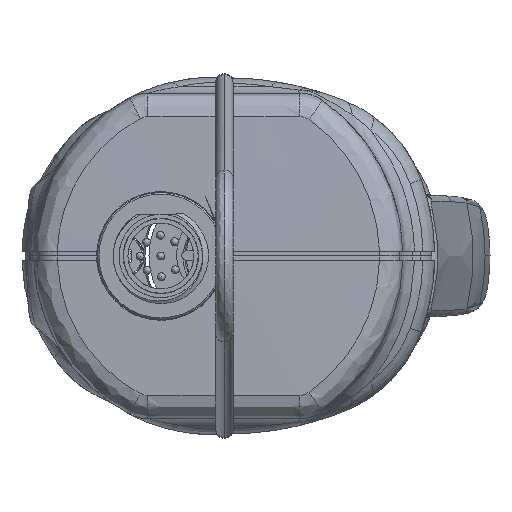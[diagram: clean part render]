
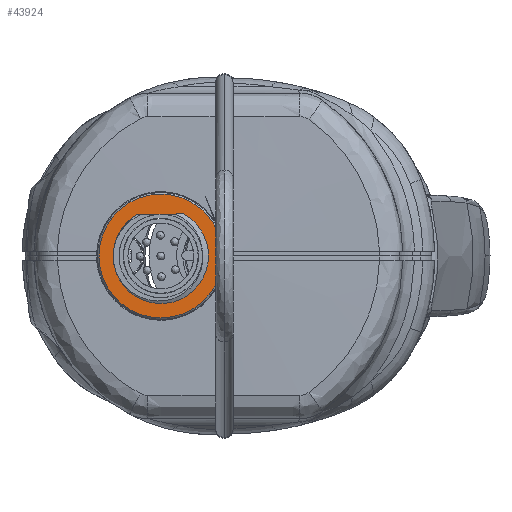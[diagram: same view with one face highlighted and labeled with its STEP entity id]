
A CAD part, front view. The second image highlights one B-rep face of the part: STEP entity #43924.
In plain terms, the highlighted planar face has unit normal (0, -1, 0).
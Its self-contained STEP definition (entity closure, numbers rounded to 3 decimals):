
#817 = CARTESIAN_POINT ( 'NONE',  ( -33.396, -178.5, 5.331 ) ) ;
#1278 = PLANE ( 'NONE',  #67901 ) ;
#2195 = DIRECTION ( 'NONE',  ( -1., 0., -0.02 ) ) ;
#2654 = CARTESIAN_POINT ( 'NONE',  ( -37.56, -178.5, 0. ) ) ;
#4634 = ORIENTED_EDGE ( 'NONE', *, *, #34687, .T. ) ;
#7404 = AXIS2_PLACEMENT_3D ( 'NONE', #42350, #63136, #83440 ) ;
#7606 = ORIENTED_EDGE ( 'NONE', *, *, #34463, .T. ) ;
#8214 = VECTOR ( 'NONE', #58479, 1000. ) ;
#10332 = CIRCLE ( 'NONE', #7404, 5.25 ) ;
#10479 = DIRECTION ( 'NONE',  ( 0., 1., 0. ) ) ;
#11431 = DIRECTION ( 'NONE',  ( 0., 1., 0. ) ) ;
#17931 = CARTESIAN_POINT ( 'NONE',  ( -37.56, -178.5, 0. ) ) ;
#18401 = EDGE_CURVE ( 'NONE', #39954, #72523, #10332, .T. ) ;
#18529 = CARTESIAN_POINT ( 'NONE',  ( -45.359, -178.5, -0.154 ) ) ;
#21963 = CIRCLE ( 'NONE', #33761, 7.8 ) ;
#23918 = DIRECTION ( 'NONE',  ( 0., -1., 0. ) ) ;
#26402 = EDGE_CURVE ( 'NONE', #56732, #86635, #60204, .T. ) ;
#28957 = FACE_OUTER_BOUND ( 'NONE', #31240, .T. ) ;
#30353 = LINE ( 'NONE', #817, #8214 ) ;
#31240 = EDGE_LOOP ( 'NONE', ( #60222, #7606 ) ) ;
#33464 = EDGE_CURVE ( 'NONE', #40614, #64198, #21963, .T. ) ;
#33761 = AXIS2_PLACEMENT_3D ( 'NONE', #17931, #23918, #74221 ) ;
#34463 = EDGE_CURVE ( 'NONE', #64198, #40614, #59498, .T. ) ;
#34687 = EDGE_CURVE ( 'NONE', #86635, #39954, #56493, .T. ) ;
#37574 = EDGE_LOOP ( 'NONE', ( #49590, #85051, #4634, #81041 ) ) ;
#37724 = FACE_BOUND ( 'NONE', #37574, .T. ) ;
#38562 = CARTESIAN_POINT ( 'NONE',  ( -37.488, -178.5, 5.249 ) ) ;
#39530 = DIRECTION ( 'NONE',  ( 1., 0., 0.02 ) ) ;
#39954 = VERTEX_POINT ( 'NONE', #88647 ) ;
#40614 = VERTEX_POINT ( 'NONE', #77455 ) ;
#42350 = CARTESIAN_POINT ( 'NONE',  ( -37.56, -178.5, 0. ) ) ;
#43924 = ADVANCED_FACE ( 'NONE', ( #28957, #37724 ), #1278, .T. ) ;
#45936 = CARTESIAN_POINT ( 'NONE',  ( -32.311, -178.5, 0.104 ) ) ;
#47703 = AXIS2_PLACEMENT_3D ( 'NONE', #77440, #68761, #82989 ) ;
#49590 = ORIENTED_EDGE ( 'NONE', *, *, #85725, .F. ) ;
#52359 = CARTESIAN_POINT ( 'NONE',  ( -37.841, -178.5, 5.243 ) ) ;
#55785 = AXIS2_PLACEMENT_3D ( 'NONE', #73706, #10479, #59821 ) ;
#56493 = CIRCLE ( 'NONE', #65355, 5.25 ) ;
#56732 = VERTEX_POINT ( 'NONE', #38562 ) ;
#58471 = DIRECTION ( 'NONE',  ( 0., -1., 0. ) ) ;
#58479 = DIRECTION ( 'NONE',  ( -1., 0., -0.02 ) ) ;
#59498 = CIRCLE ( 'NONE', #47703, 7.8 ) ;
#59821 = DIRECTION ( 'NONE',  ( 1., 0., 0.02 ) ) ;
#60204 = CIRCLE ( 'NONE', #55785, 5.25 ) ;
#60222 = ORIENTED_EDGE ( 'NONE', *, *, #33464, .T. ) ;
#63136 = DIRECTION ( 'NONE',  ( 0., 1., 0. ) ) ;
#64198 = VERTEX_POINT ( 'NONE', #18529 ) ;
#65355 = AXIS2_PLACEMENT_3D ( 'NONE', #67736, #11431, #39530 ) ;
#67736 = CARTESIAN_POINT ( 'NONE',  ( -37.56, -178.5, 0. ) ) ;
#67901 = AXIS2_PLACEMENT_3D ( 'NONE', #2654, #58471, #2195 ) ;
#68761 = DIRECTION ( 'NONE',  ( 0., -1., 0. ) ) ;
#72523 = VERTEX_POINT ( 'NONE', #52359 ) ;
#73706 = CARTESIAN_POINT ( 'NONE',  ( -37.56, -178.5, 0. ) ) ;
#74221 = DIRECTION ( 'NONE',  ( -1., 0., -0.02 ) ) ;
#77440 = CARTESIAN_POINT ( 'NONE',  ( -37.56, -178.5, 0. ) ) ;
#77455 = CARTESIAN_POINT ( 'NONE',  ( -29.762, -178.5, 0.154 ) ) ;
#81041 = ORIENTED_EDGE ( 'NONE', *, *, #18401, .T. ) ;
#82989 = DIRECTION ( 'NONE',  ( -1., 0., -0.02 ) ) ;
#83440 = DIRECTION ( 'NONE',  ( 1., 0., 0.02 ) ) ;
#85051 = ORIENTED_EDGE ( 'NONE', *, *, #26402, .T. ) ;
#85725 = EDGE_CURVE ( 'NONE', #56732, #72523, #30353, .T. ) ;
#86635 = VERTEX_POINT ( 'NONE', #45936 ) ;
#88647 = CARTESIAN_POINT ( 'NONE',  ( -42.809, -178.5, -0.104 ) ) ;
